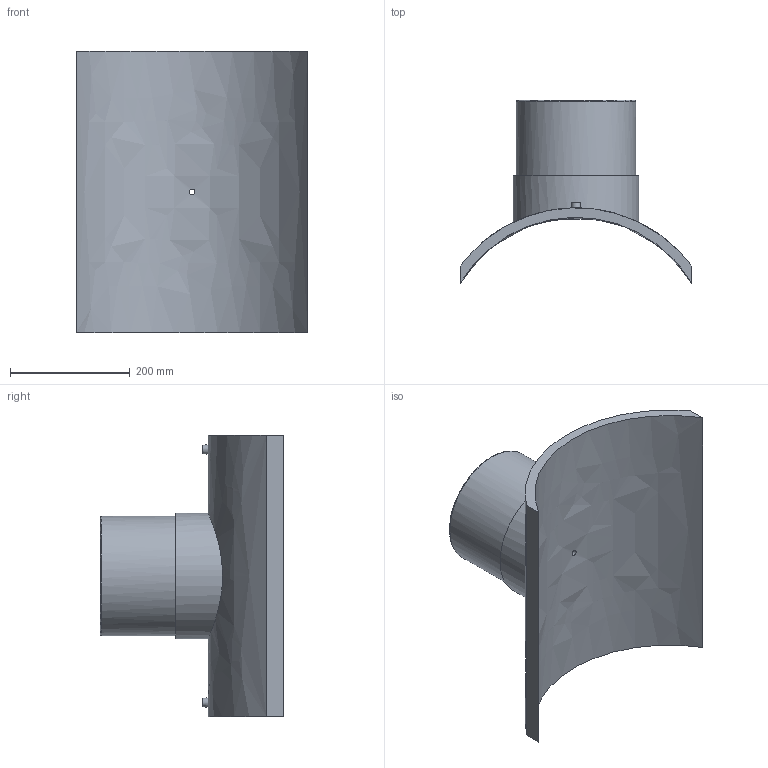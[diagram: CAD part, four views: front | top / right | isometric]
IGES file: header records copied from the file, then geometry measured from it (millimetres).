
Global section: file name: 495803450200T; native system: Autodesk Inventor 2019; preprocessor: unknown; author: KIM; date: 20240404.115054; units: millimetre
Bounding box: 387 x 306.18 x 470 mm (x, y, z)
Volume: 5793082.3 mm3; surface area: 696503.1 mm2
Topology: 1 solids, 1 shells, 29 faces, 60 edges, 43 vertices
Faces by surface type: bspline 29
